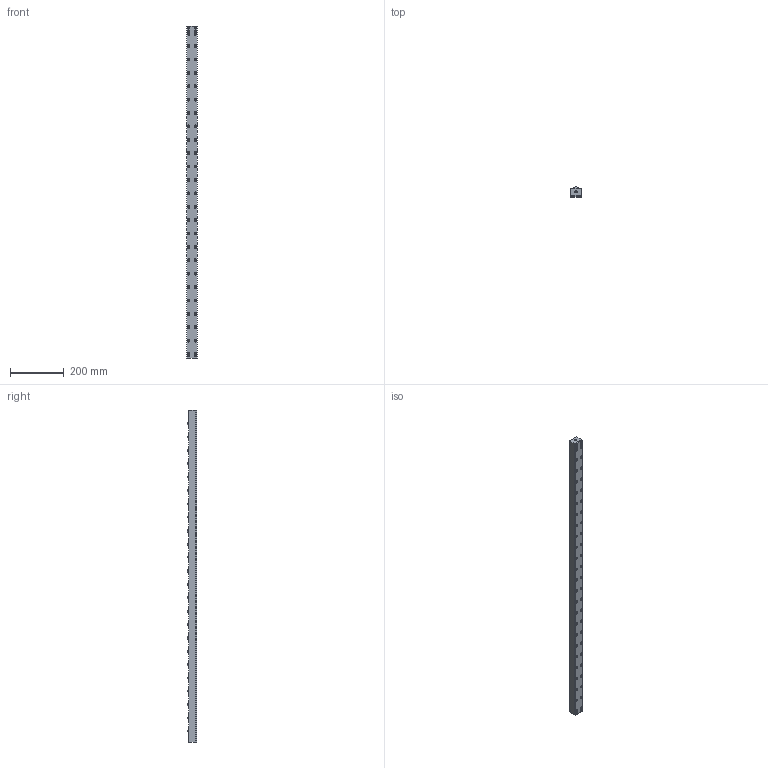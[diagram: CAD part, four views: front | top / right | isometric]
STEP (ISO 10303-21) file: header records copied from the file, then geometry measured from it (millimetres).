
FILE_DESCRIPTION (( 'STEP AP203' ), '1' );
FILE_NAME ('PVL30SL-24-P50.STEP', '2016-02-18T09:11:59', ( '' ), ( '' ), 'SwSTEP 2.0', 'SolidWorks 2013', '' );
FILE_SCHEMA (( 'CONFIG_CONTROL_DESIGN' ));
Length unit declared in the file: millimetre
Products named in the file (1): PVL30SL-24-P50
Bounding box: 38 x 36 x 1240 mm (x, y, z)
Volume: 1466748.2 mm3; surface area: 401121.7 mm2
Topology: 9 solids, 9 shells, 965 faces, 2188 edges, 1455 vertices
Faces by surface type: plane 539, cylinder 338, sphere 48, cone 40
Entity records: 27325 total; most frequent: DIRECTION 4930, CARTESIAN_POINT 4595, ORIENTED_EDGE 4348, EDGE_CURVE 2174, AXIS2_PLACEMENT_3D 1790, VERTEX_POINT 1455, VECTOR 1350, LINE 1350
